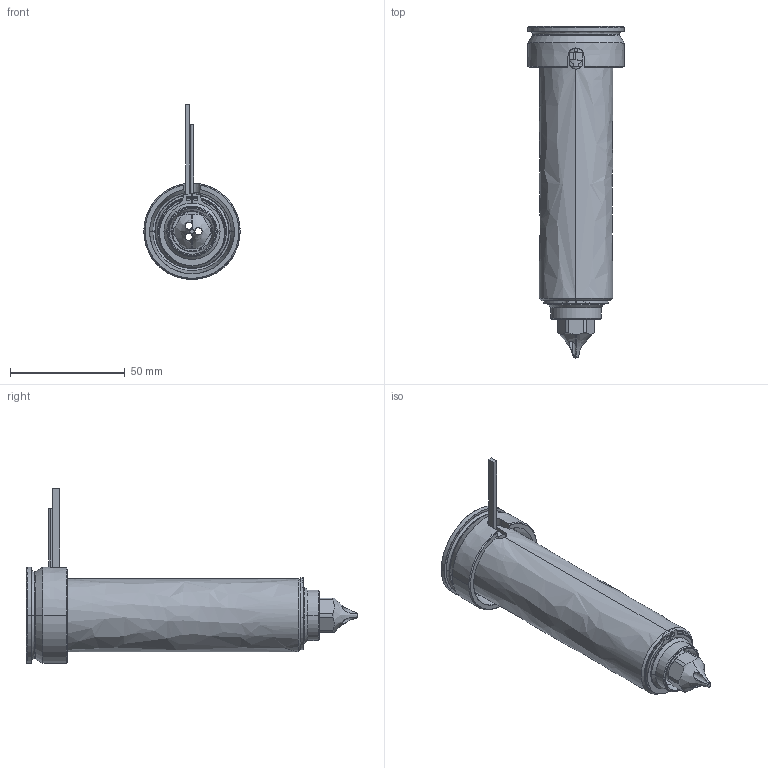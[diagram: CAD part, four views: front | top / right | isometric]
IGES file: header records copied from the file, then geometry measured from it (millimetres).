
Start section: SolidWorks IGES file using analytic representation for surfaces
Global section: file name: C:\Users\luca.EMPAD\Desktop\TEM\UGDL3614-M-A-1 [Øf=2.0 ØC=09].IGS; native system: SolidWorks 2012; preprocessor: SolidWorks 2012; author: luca; date: 120330.155815; units: millimetre
Bounding box: 42 x 144.8 x 76.3 mm (x, y, z)
Surface area: 46580.7 mm2 (no closed solid volume)
Topology: 0 solids, 0 shells, 126 faces, 2236 edges, 2236 vertices
Faces by surface type: revolution 79, bspline 47
